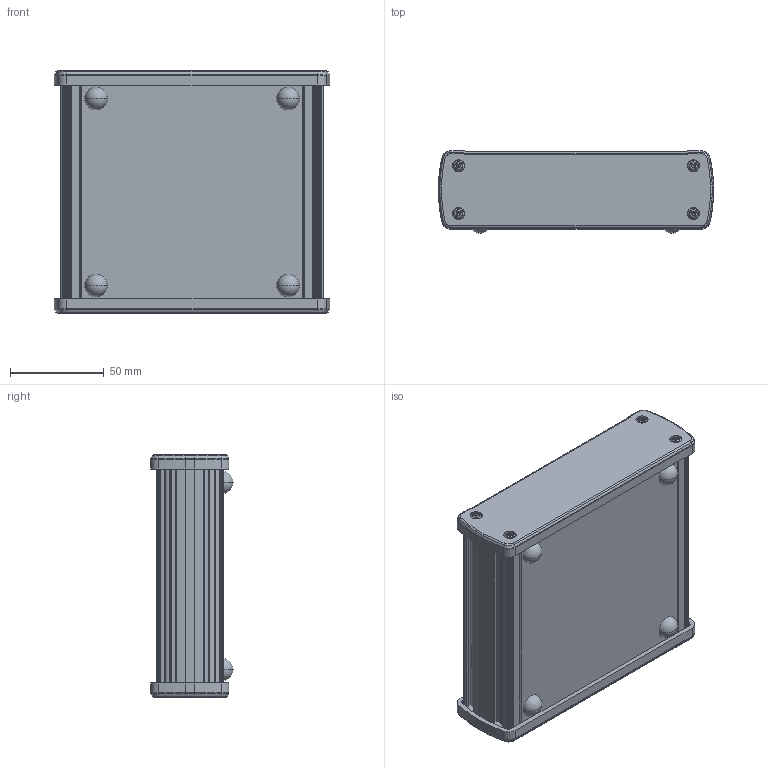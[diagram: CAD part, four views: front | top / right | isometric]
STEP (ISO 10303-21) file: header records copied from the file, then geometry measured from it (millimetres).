
FILE_DESCRIPTION (( 'STEP AP203' ), '1' );
FILE_NAME ('EX-60-01.step', '2017-08-29T18:19:41', ( '' ), ( '' ), 'SwSTEP 2.0', 'SolidWorks 2016', '' );
FILE_SCHEMA (( 'CONFIG_CONTROL_DESIGN' ));
Length unit declared in the file: inch
Products named in the file (7): EX-01A; EX-60-01; EX-59E_EX-59E-01; EX-59B-62B_EX-60B-01; EX-01W; pan cross head_ks_EX-01S-01; EX-59G
Assembly tree (25 placements, depth 2):
  EX-60-01
    EX-59B-62B_EX-60B-01
    EX-59E_EX-59E-01  x2
    EX-59G  x2
    pan cross head_ks_EX-01S-01  x8
    EX-01W  x8
    EX-01A  x4
Bounding box: 146.6 x 43.8 x 129.49 mm (x, y, z)
Volume: 166383.4 mm3; surface area: 143415.8 mm2
Topology: 25 solids, 25 shells, 1156 faces, 2928 edges, 1820 vertices
Faces by surface type: plane 452, cylinder 440, cone 112, torus 112, sphere 40
Entity records: 20273 total; most frequent: CARTESIAN_POINT 4012, DIRECTION 3290, ORIENTED_EDGE 3108, EDGE_CURVE 1554, AXIS2_PLACEMENT_3D 1212, VERTEX_POINT 990, LINE 866, VECTOR 866
